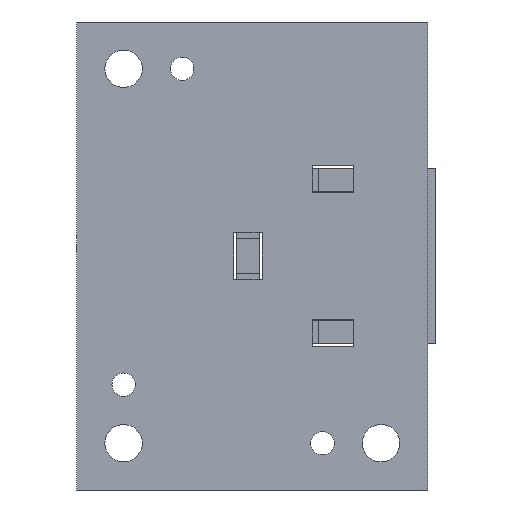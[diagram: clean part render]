
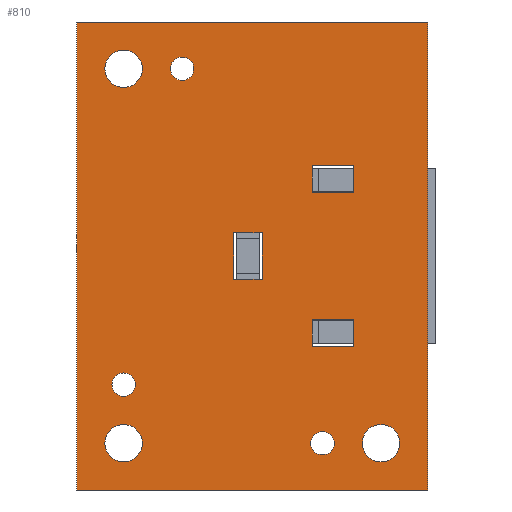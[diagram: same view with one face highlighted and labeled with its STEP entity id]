
A CAD part, front view. The second image highlights one B-rep face of the part: STEP entity #810.
In plain terms, the highlighted planar face has unit normal (0, -1, 0).
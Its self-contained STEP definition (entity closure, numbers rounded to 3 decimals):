
#4=DIRECTION('',(0.,0.,1.));
#5=VECTOR('',#4,40.);
#6=CARTESIAN_POINT('',(-15.,0.,-20.));
#7=LINE('',#6,#5);
#12=DIRECTION('',(1.,0.,0.));
#13=VECTOR('',#12,30.);
#14=CARTESIAN_POINT('',(-15.,0.,20.));
#15=LINE('',#14,#13);
#19=DIRECTION('',(0.,0.,-1.));
#20=VECTOR('',#19,40.);
#21=CARTESIAN_POINT('',(15.,0.,20.));
#22=LINE('',#21,#20);
#26=DIRECTION('',(-1.,0.,0.));
#27=VECTOR('',#26,30.);
#28=CARTESIAN_POINT('',(15.,0.,-20.));
#29=LINE('',#28,#27);
#33=CARTESIAN_POINT('',(-11.,0.,-16.));
#34=DIRECTION('',(0.,1.,0.));
#35=DIRECTION('',(0.,0.,1.));
#36=AXIS2_PLACEMENT_3D('',#33,#34,#35);
#41=CARTESIAN_POINT('',(-11.,0.,-16.));
#42=DIRECTION('',(0.,1.,0.));
#43=DIRECTION('',(0.,0.,-1.));
#44=AXIS2_PLACEMENT_3D('',#41,#42,#43);
#49=CARTESIAN_POINT('',(-11.,0.,-11.));
#50=DIRECTION('',(0.,1.,0.));
#51=DIRECTION('',(0.,0.,1.));
#52=AXIS2_PLACEMENT_3D('',#49,#50,#51);
#57=CARTESIAN_POINT('',(-11.,0.,-11.));
#58=DIRECTION('',(0.,1.,0.));
#59=DIRECTION('',(0.,0.,-1.));
#60=AXIS2_PLACEMENT_3D('',#57,#58,#59);
#65=CARTESIAN_POINT('',(-11.,0.,16.));
#66=DIRECTION('',(0.,1.,0.));
#67=DIRECTION('',(-1.,0.,0.));
#68=AXIS2_PLACEMENT_3D('',#65,#66,#67);
#73=CARTESIAN_POINT('',(-11.,0.,16.));
#74=DIRECTION('',(0.,1.,0.));
#75=DIRECTION('',(1.,0.,0.));
#76=AXIS2_PLACEMENT_3D('',#73,#74,#75);
#81=CARTESIAN_POINT('',(-6.,0.,16.));
#82=DIRECTION('',(0.,1.,0.));
#83=DIRECTION('',(-1.,0.,0.));
#84=AXIS2_PLACEMENT_3D('',#81,#82,#83);
#89=CARTESIAN_POINT('',(-6.,0.,16.));
#90=DIRECTION('',(0.,1.,0.));
#91=DIRECTION('',(1.,0.,0.));
#92=AXIS2_PLACEMENT_3D('',#89,#90,#91);
#97=CARTESIAN_POINT('',(11.,0.,-16.));
#98=DIRECTION('',(0.,1.,0.));
#99=DIRECTION('',(-1.,0.,0.));
#100=AXIS2_PLACEMENT_3D('',#97,#98,#99);
#105=CARTESIAN_POINT('',(11.,0.,-16.));
#106=DIRECTION('',(0.,1.,0.));
#107=DIRECTION('',(1.,0.,0.));
#108=AXIS2_PLACEMENT_3D('',#105,#106,#107);
#113=CARTESIAN_POINT('',(6.,0.,-16.));
#114=DIRECTION('',(0.,1.,0.));
#115=DIRECTION('',(-1.,0.,0.));
#116=AXIS2_PLACEMENT_3D('',#113,#114,#115);
#121=CARTESIAN_POINT('',(6.,0.,-16.));
#122=DIRECTION('',(0.,1.,0.));
#123=DIRECTION('',(1.,0.,0.));
#124=AXIS2_PLACEMENT_3D('',#121,#122,#123);
#129=DIRECTION('',(-1.,0.,0.));
#130=VECTOR('',#129,3.55);
#131=CARTESIAN_POINT('',(8.685,0.,-7.705));
#132=LINE('',#131,#130);
#136=DIRECTION('',(0.,0.,-1.));
#137=VECTOR('',#136,2.25);
#138=CARTESIAN_POINT('',(8.685,0.,-5.455));
#139=LINE('',#138,#137);
#143=DIRECTION('',(1.,0.,0.));
#144=VECTOR('',#143,3.55);
#145=CARTESIAN_POINT('',(5.135,0.,-5.455));
#146=LINE('',#145,#144);
#150=DIRECTION('',(0.,0.,1.));
#151=VECTOR('',#150,2.25);
#152=CARTESIAN_POINT('',(5.135,0.,-7.705));
#153=LINE('',#152,#151);
#157=DIRECTION('',(-1.,0.,0.));
#158=VECTOR('',#157,3.55);
#159=CARTESIAN_POINT('',(8.685,0.,5.455));
#160=LINE('',#159,#158);
#164=DIRECTION('',(0.,0.,-1.));
#165=VECTOR('',#164,2.25);
#166=CARTESIAN_POINT('',(8.685,0.,7.705));
#167=LINE('',#166,#165);
#171=DIRECTION('',(1.,0.,0.));
#172=VECTOR('',#171,3.55);
#173=CARTESIAN_POINT('',(5.135,0.,7.705));
#174=LINE('',#173,#172);
#178=DIRECTION('',(0.,0.,1.));
#179=VECTOR('',#178,2.25);
#180=CARTESIAN_POINT('',(5.135,0.,5.455));
#181=LINE('',#180,#179);
#185=DIRECTION('',(-1.,0.,0.));
#186=VECTOR('',#185,2.4);
#187=CARTESIAN_POINT('',(0.83,0.,-2.));
#188=LINE('',#187,#186);
#192=DIRECTION('',(0.,0.,-1.));
#193=VECTOR('',#192,4.);
#194=CARTESIAN_POINT('',(0.83,0.,2.));
#195=LINE('',#194,#193);
#199=DIRECTION('',(1.,0.,0.));
#200=VECTOR('',#199,2.4);
#201=CARTESIAN_POINT('',(-1.57,0.,2.));
#202=LINE('',#201,#200);
#206=DIRECTION('',(0.,0.,1.));
#207=VECTOR('',#206,4.);
#208=CARTESIAN_POINT('',(-1.57,0.,-2.));
#209=LINE('',#208,#207);
#617=CARTESIAN_POINT('',(-15.,0.,-20.));
#618=CARTESIAN_POINT('',(-15.,0.,20.));
#619=VERTEX_POINT('',#617);
#620=VERTEX_POINT('',#618);
#621=CARTESIAN_POINT('',(15.,0.,20.));
#622=VERTEX_POINT('',#621);
#623=CARTESIAN_POINT('',(15.,0.,-20.));
#624=VERTEX_POINT('',#623);
#633=CARTESIAN_POINT('',(-12.6,0.,16.));
#634=CARTESIAN_POINT('',(-9.4,0.,16.));
#635=VERTEX_POINT('',#633);
#636=VERTEX_POINT('',#634);
#637=CARTESIAN_POINT('',(-7.,0.,16.));
#638=CARTESIAN_POINT('',(-5.,0.,16.));
#639=VERTEX_POINT('',#637);
#640=VERTEX_POINT('',#638);
#641=CARTESIAN_POINT('',(9.4,0.,-16.));
#642=CARTESIAN_POINT('',(12.6,0.,-16.));
#643=VERTEX_POINT('',#641);
#644=VERTEX_POINT('',#642);
#645=CARTESIAN_POINT('',(5.,0.,-16.));
#646=CARTESIAN_POINT('',(7.,0.,-16.));
#647=VERTEX_POINT('',#645);
#648=VERTEX_POINT('',#646);
#665=CARTESIAN_POINT('',(-11.,0.,-14.4));
#666=CARTESIAN_POINT('',(-11.,0.,-17.6));
#667=VERTEX_POINT('',#665);
#668=VERTEX_POINT('',#666);
#669=CARTESIAN_POINT('',(-11.,0.,-10.));
#670=CARTESIAN_POINT('',(-11.,0.,-12.));
#671=VERTEX_POINT('',#669);
#672=VERTEX_POINT('',#670);
#681=CARTESIAN_POINT('',(8.685,0.,-7.705));
#682=CARTESIAN_POINT('',(5.135,0.,-7.705));
#683=VERTEX_POINT('',#681);
#684=VERTEX_POINT('',#682);
#685=CARTESIAN_POINT('',(5.135,0.,-5.455));
#686=VERTEX_POINT('',#685);
#687=CARTESIAN_POINT('',(8.685,0.,-5.455));
#688=VERTEX_POINT('',#687);
#689=CARTESIAN_POINT('',(8.685,0.,5.455));
#690=CARTESIAN_POINT('',(5.135,0.,5.455));
#691=VERTEX_POINT('',#689);
#692=VERTEX_POINT('',#690);
#693=CARTESIAN_POINT('',(5.135,0.,7.705));
#694=VERTEX_POINT('',#693);
#695=CARTESIAN_POINT('',(8.685,0.,7.705));
#696=VERTEX_POINT('',#695);
#697=CARTESIAN_POINT('',(0.83,0.,-2.));
#698=CARTESIAN_POINT('',(-1.57,0.,-2.));
#699=VERTEX_POINT('',#697);
#700=VERTEX_POINT('',#698);
#701=CARTESIAN_POINT('',(-1.57,0.,2.));
#702=VERTEX_POINT('',#701);
#703=CARTESIAN_POINT('',(0.83,0.,2.));
#704=VERTEX_POINT('',#703);
#729=CARTESIAN_POINT('',(0.,0.,0.));
#730=DIRECTION('',(0.,1.,0.));
#731=DIRECTION('',(1.,0.,0.));
#732=AXIS2_PLACEMENT_3D('',#729,#730,#731);
#733=PLANE('',#732);
#735=ORIENTED_EDGE('',*,*,#734,.T.);
#737=ORIENTED_EDGE('',*,*,#736,.T.);
#739=ORIENTED_EDGE('',*,*,#738,.T.);
#741=ORIENTED_EDGE('',*,*,#740,.T.);
#742=EDGE_LOOP('',(#735,#737,#739,#741));
#743=FACE_OUTER_BOUND('',#742,.F.);
#745=ORIENTED_EDGE('',*,*,#744,.F.);
#747=ORIENTED_EDGE('',*,*,#746,.F.);
#748=EDGE_LOOP('',(#745,#747));
#749=FACE_BOUND('',#748,.F.);
#751=ORIENTED_EDGE('',*,*,#750,.F.);
#753=ORIENTED_EDGE('',*,*,#752,.F.);
#754=EDGE_LOOP('',(#751,#753));
#755=FACE_BOUND('',#754,.F.);
#757=ORIENTED_EDGE('',*,*,#756,.F.);
#759=ORIENTED_EDGE('',*,*,#758,.F.);
#760=EDGE_LOOP('',(#757,#759));
#761=FACE_BOUND('',#760,.F.);
#763=ORIENTED_EDGE('',*,*,#762,.F.);
#765=ORIENTED_EDGE('',*,*,#764,.F.);
#766=EDGE_LOOP('',(#763,#765));
#767=FACE_BOUND('',#766,.F.);
#769=ORIENTED_EDGE('',*,*,#768,.F.);
#771=ORIENTED_EDGE('',*,*,#770,.F.);
#772=EDGE_LOOP('',(#769,#771));
#773=FACE_BOUND('',#772,.F.);
#775=ORIENTED_EDGE('',*,*,#774,.F.);
#777=ORIENTED_EDGE('',*,*,#776,.F.);
#778=EDGE_LOOP('',(#775,#777));
#779=FACE_BOUND('',#778,.F.);
#781=ORIENTED_EDGE('',*,*,#780,.F.);
#783=ORIENTED_EDGE('',*,*,#782,.F.);
#785=ORIENTED_EDGE('',*,*,#784,.F.);
#787=ORIENTED_EDGE('',*,*,#786,.F.);
#788=EDGE_LOOP('',(#781,#783,#785,#787));
#789=FACE_BOUND('',#788,.F.);
#791=ORIENTED_EDGE('',*,*,#790,.F.);
#793=ORIENTED_EDGE('',*,*,#792,.F.);
#795=ORIENTED_EDGE('',*,*,#794,.F.);
#797=ORIENTED_EDGE('',*,*,#796,.F.);
#798=EDGE_LOOP('',(#791,#793,#795,#797));
#799=FACE_BOUND('',#798,.F.);
#801=ORIENTED_EDGE('',*,*,#800,.F.);
#803=ORIENTED_EDGE('',*,*,#802,.F.);
#805=ORIENTED_EDGE('',*,*,#804,.F.);
#807=ORIENTED_EDGE('',*,*,#806,.F.);
#808=EDGE_LOOP('',(#801,#803,#805,#807));
#809=FACE_BOUND('',#808,.F.);
#810=ADVANCED_FACE('',(#743,#749,#755,#761,#767,#773,#779,#789,#799,#809),#733,
.F.);
#37=CIRCLE('',#36,1.6);
#45=CIRCLE('',#44,1.6);
#53=CIRCLE('',#52,1.);
#61=CIRCLE('',#60,1.);
#69=CIRCLE('',#68,1.6);
#77=CIRCLE('',#76,1.6);
#85=CIRCLE('',#84,1.);
#93=CIRCLE('',#92,1.);
#101=CIRCLE('',#100,1.6);
#109=CIRCLE('',#108,1.6);
#117=CIRCLE('',#116,1.);
#125=CIRCLE('',#124,1.);
#734=EDGE_CURVE('',#619,#620,#7,.T.);
#736=EDGE_CURVE('',#620,#622,#15,.T.);
#738=EDGE_CURVE('',#622,#624,#22,.T.);
#740=EDGE_CURVE('',#624,#619,#29,.T.);
#744=EDGE_CURVE('',#667,#668,#37,.T.);
#746=EDGE_CURVE('',#668,#667,#45,.T.);
#750=EDGE_CURVE('',#671,#672,#53,.T.);
#752=EDGE_CURVE('',#672,#671,#61,.T.);
#756=EDGE_CURVE('',#635,#636,#69,.T.);
#758=EDGE_CURVE('',#636,#635,#77,.T.);
#762=EDGE_CURVE('',#639,#640,#85,.T.);
#764=EDGE_CURVE('',#640,#639,#93,.T.);
#768=EDGE_CURVE('',#643,#644,#101,.T.);
#770=EDGE_CURVE('',#644,#643,#109,.T.);
#774=EDGE_CURVE('',#647,#648,#117,.T.);
#776=EDGE_CURVE('',#648,#647,#125,.T.);
#780=EDGE_CURVE('',#683,#684,#132,.T.);
#782=EDGE_CURVE('',#688,#683,#139,.T.);
#784=EDGE_CURVE('',#686,#688,#146,.T.);
#786=EDGE_CURVE('',#684,#686,#153,.T.);
#790=EDGE_CURVE('',#691,#692,#160,.T.);
#792=EDGE_CURVE('',#696,#691,#167,.T.);
#794=EDGE_CURVE('',#694,#696,#174,.T.);
#796=EDGE_CURVE('',#692,#694,#181,.T.);
#800=EDGE_CURVE('',#699,#700,#188,.T.);
#802=EDGE_CURVE('',#704,#699,#195,.T.);
#804=EDGE_CURVE('',#702,#704,#202,.T.);
#806=EDGE_CURVE('',#700,#702,#209,.T.);
